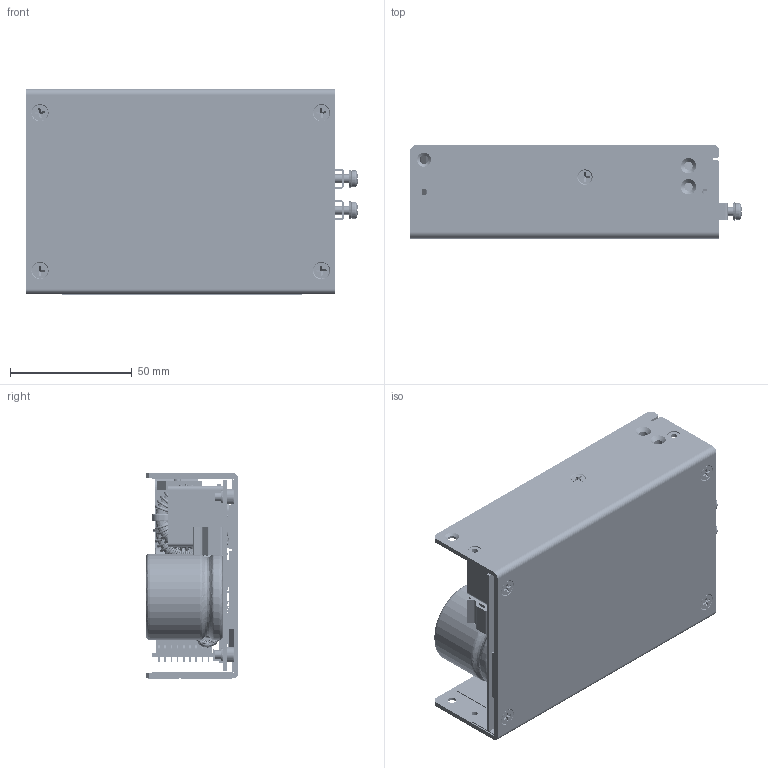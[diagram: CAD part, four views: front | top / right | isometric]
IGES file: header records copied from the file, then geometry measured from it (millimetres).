
Start section: SolidWorks IGES file using analytic representation for surfaces
Global section: file name: C:\Documents and Settings\billlurie\Desktop\N2\375 Iges\XL375.IGS; native system: SolidWorks 2011; preprocessor: SolidWorks 2011; author: billlurie; date: 120227.115718; units: inch
Bounding box: 136.3 x 38.12 x 84.52 mm (x, y, z)
Surface area: 169338.9 mm2 (no closed solid volume)
Topology: 0 solids, 0 shells, 6651 faces, 153228 edges, 187580 vertices
Faces by surface type: bspline 4486, revolution 2165
